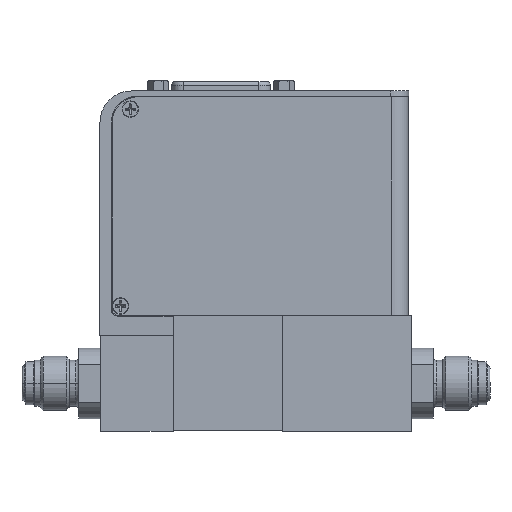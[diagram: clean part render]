
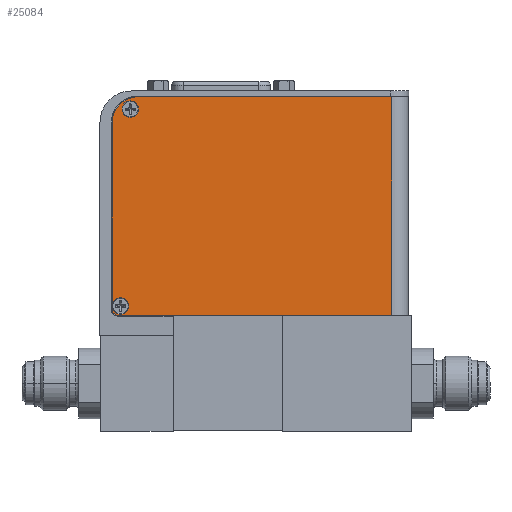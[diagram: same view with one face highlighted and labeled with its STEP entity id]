
A CAD part, top view. The second image highlights one B-rep face of the part: STEP entity #25084.
In plain terms, the highlighted planar face has unit normal (0, 0, 1).
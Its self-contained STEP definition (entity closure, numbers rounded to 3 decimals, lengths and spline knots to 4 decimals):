
#578 = VECTOR ( 'NONE', #21292, 39.3701 ) ;
#1390 = CIRCLE ( 'NONE', #17017, 0.086 ) ;
#2836 = DIRECTION ( 'NONE',  ( 1., 0., 0. ) ) ;
#3545 = VECTOR ( 'NONE', #17978, 39.3701 ) ;
#4019 = CARTESIAN_POINT ( 'NONE',  ( 1.0111, 4.5118, 3.0735 ) ) ;
#4066 = AXIS2_PLACEMENT_3D ( 'NONE', #19922, #29838, #50578 ) ;
#4133 = CARTESIAN_POINT ( 'NONE',  ( 3.6601, 2.5008, 3.0735 ) ) ;
#5841 = CARTESIAN_POINT ( 'NONE',  ( 0.7411, 4.5118, 3.0735 ) ) ;
#8649 = CARTESIAN_POINT ( 'NONE',  ( 0.9311, 4.6528, 3.0735 ) ) ;
#9603 = CARTESIAN_POINT ( 'NONE',  ( 3.6601, 4.7818, 3.0735 ) ) ;
#9720 = CARTESIAN_POINT ( 'NONE',  ( 0.8451, 4.6528, 3.0735 ) ) ;
#9737 = VECTOR ( 'NONE', #50493, 39.3701 ) ;
#10332 = EDGE_CURVE ( 'NONE', #52795, #56808, #14760, .T. ) ;
#10596 = ORIENTED_EDGE ( 'NONE', *, *, #56447, .F. ) ;
#11657 = CARTESIAN_POINT ( 'NONE',  ( 0.7431, 2.5988, 3.0735 ) ) ;
#12383 = CARTESIAN_POINT ( 'NONE',  ( 0.8291, 2.5988, 3.0735 ) ) ;
#14088 = CARTESIAN_POINT ( 'NONE',  ( 0.8291, 2.5988, 3.0735 ) ) ;
#14142 = VECTOR ( 'NONE', #43217, 39.3701 ) ;
#14500 = DIRECTION ( 'NONE',  ( 0., 0., -1. ) ) ;
#14760 = LINE ( 'NONE', #23795, #14142 ) ;
#15453 = CARTESIAN_POINT ( 'NONE',  ( 1.0171, 4.6528, 3.0735 ) ) ;
#15454 = ORIENTED_EDGE ( 'NONE', *, *, #36333, .T. ) ;
#15794 = EDGE_LOOP ( 'NONE', ( #41134, #34307 ) ) ;
#16001 = VERTEX_POINT ( 'NONE', #15453 ) ;
#17017 = AXIS2_PLACEMENT_3D ( 'NONE', #12383, #46040, #50913 ) ;
#17032 = CIRCLE ( 'NONE', #19551, 0.086 ) ;
#17978 = DIRECTION ( 'NONE',  ( 1., 0., 0. ) ) ;
#18205 = DIRECTION ( 'NONE',  ( 0., 0., -1. ) ) ;
#19305 = DIRECTION ( 'NONE',  ( -1., 0., 0. ) ) ;
#19551 = AXIS2_PLACEMENT_3D ( 'NONE', #14088, #14500, #44477 ) ;
#19922 = CARTESIAN_POINT ( 'NONE',  ( 0.8041, 2.5638, 3.0735 ) ) ;
#21292 = DIRECTION ( 'NONE',  ( 0., 1., 0. ) ) ;
#21679 = EDGE_CURVE ( 'NONE', #33792, #56808, #24667, .T. ) ;
#22005 = VERTEX_POINT ( 'NONE', #50344 ) ;
#22653 = DIRECTION ( 'NONE',  ( 0., 0., -1. ) ) ;
#23291 = VERTEX_POINT ( 'NONE', #11657 ) ;
#23795 = CARTESIAN_POINT ( 'NONE',  ( 3.6601, 4.7818, 3.0735 ) ) ;
#24316 = CIRCLE ( 'NONE', #45348, 0.27 ) ;
#24667 = LINE ( 'NONE', #26674, #3545 ) ;
#24684 = DIRECTION ( 'NONE',  ( 0., 0., -1. ) ) ;
#25084 = ADVANCED_FACE ( 'NONE', ( #31696, #52835, #52948 ), #39921, .F. ) ;
#26674 = CARTESIAN_POINT ( 'NONE',  ( 3.6601, 2.5008, 3.0735 ) ) ;
#28135 = ORIENTED_EDGE ( 'NONE', *, *, #54663, .F. ) ;
#29685 = EDGE_LOOP ( 'NONE', ( #61095, #15454 ) ) ;
#29838 = DIRECTION ( 'NONE',  ( 0., 0., -1. ) ) ;
#30169 = CARTESIAN_POINT ( 'NONE',  ( 3.8001, 4.7818, 3.0735 ) ) ;
#30855 = EDGE_CURVE ( 'NONE', #54628, #23291, #1390, .T. ) ;
#31696 = FACE_OUTER_BOUND ( 'NONE', #43457, .T. ) ;
#31851 = VERTEX_POINT ( 'NONE', #38620 ) ;
#33523 = AXIS2_PLACEMENT_3D ( 'NONE', #9603, #24684, #41202 ) ;
#33792 = VERTEX_POINT ( 'NONE', #47745 ) ;
#34007 = EDGE_CURVE ( 'NONE', #52328, #22005, #24316, .T. ) ;
#34083 = AXIS2_PLACEMENT_3D ( 'NONE', #8649, #18205, #47652 ) ;
#34307 = ORIENTED_EDGE ( 'NONE', *, *, #49612, .T. ) ;
#34348 = AXIS2_PLACEMENT_3D ( 'NONE', #62856, #52828, #2836 ) ;
#36315 = CIRCLE ( 'NONE', #4066, 0.063 ) ;
#36333 = EDGE_CURVE ( 'NONE', #23291, #54628, #17032, .T. ) ;
#38620 = CARTESIAN_POINT ( 'NONE',  ( 0.7411, 2.5638, 3.0735 ) ) ;
#39662 = CIRCLE ( 'NONE', #34083, 0.086 ) ;
#39921 = PLANE ( 'NONE',  #33523 ) ;
#40059 = EDGE_CURVE ( 'NONE', #16001, #43117, #39662, .T. ) ;
#41134 = ORIENTED_EDGE ( 'NONE', *, *, #40059, .T. ) ;
#41202 = DIRECTION ( 'NONE',  ( -1., 0., 0. ) ) ;
#43117 = VERTEX_POINT ( 'NONE', #9720 ) ;
#43217 = DIRECTION ( 'NONE',  ( 0., -1., 0. ) ) ;
#43457 = EDGE_LOOP ( 'NONE', ( #28135, #50511, #61315, #54138, #60328, #10596 ) ) ;
#44477 = DIRECTION ( 'NONE',  ( 1., 0., 0. ) ) ;
#44845 = CARTESIAN_POINT ( 'NONE',  ( 0.9151, 2.5988, 3.0735 ) ) ;
#45168 = LINE ( 'NONE', #52303, #578 ) ;
#45348 = AXIS2_PLACEMENT_3D ( 'NONE', #4019, #22653, #19305 ) ;
#46040 = DIRECTION ( 'NONE',  ( 0., 0., -1. ) ) ;
#46797 = CIRCLE ( 'NONE', #34348, 0.086 ) ;
#47652 = DIRECTION ( 'NONE',  ( 1., 0., 0. ) ) ;
#47745 = CARTESIAN_POINT ( 'NONE',  ( 0.8041, 2.5008, 3.0735 ) ) ;
#49612 = EDGE_CURVE ( 'NONE', #43117, #16001, #46797, .T. ) ;
#50344 = CARTESIAN_POINT ( 'NONE',  ( 1.0111, 4.7818, 3.0735 ) ) ;
#50493 = DIRECTION ( 'NONE',  ( 1., 0., 0. ) ) ;
#50511 = ORIENTED_EDGE ( 'NONE', *, *, #21679, .T. ) ;
#50578 = DIRECTION ( 'NONE',  ( 1., 0., 0. ) ) ;
#50913 = DIRECTION ( 'NONE',  ( 1., 0., 0. ) ) ;
#51902 = LINE ( 'NONE', #30169, #9737 ) ;
#52303 = CARTESIAN_POINT ( 'NONE',  ( 0.7411, 4.7818, 3.0735 ) ) ;
#52328 = VERTEX_POINT ( 'NONE', #5841 ) ;
#52795 = VERTEX_POINT ( 'NONE', #56083 ) ;
#52828 = DIRECTION ( 'NONE',  ( 0., 0., -1. ) ) ;
#52835 = FACE_BOUND ( 'NONE', #15794, .T. ) ;
#52948 = FACE_BOUND ( 'NONE', #29685, .T. ) ;
#54138 = ORIENTED_EDGE ( 'NONE', *, *, #63168, .F. ) ;
#54628 = VERTEX_POINT ( 'NONE', #44845 ) ;
#54663 = EDGE_CURVE ( 'NONE', #33792, #31851, #36315, .T. ) ;
#56083 = CARTESIAN_POINT ( 'NONE',  ( 3.6601, 4.7818, 3.0735 ) ) ;
#56447 = EDGE_CURVE ( 'NONE', #31851, #52328, #45168, .T. ) ;
#56808 = VERTEX_POINT ( 'NONE', #4133 ) ;
#60328 = ORIENTED_EDGE ( 'NONE', *, *, #34007, .F. ) ;
#61095 = ORIENTED_EDGE ( 'NONE', *, *, #30855, .T. ) ;
#61315 = ORIENTED_EDGE ( 'NONE', *, *, #10332, .F. ) ;
#62856 = CARTESIAN_POINT ( 'NONE',  ( 0.9311, 4.6528, 3.0735 ) ) ;
#63168 = EDGE_CURVE ( 'NONE', #22005, #52795, #51902, .T. ) ;
